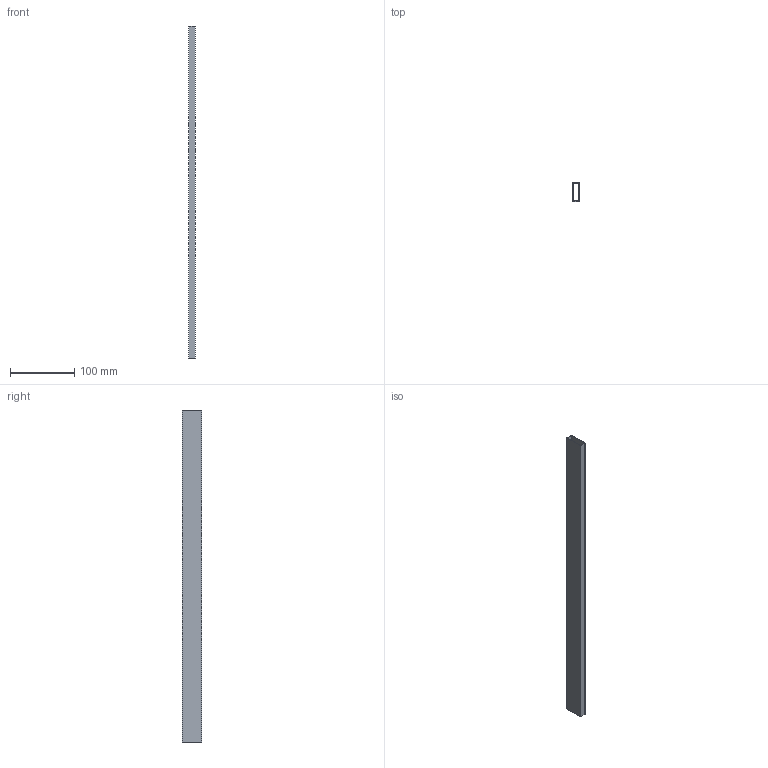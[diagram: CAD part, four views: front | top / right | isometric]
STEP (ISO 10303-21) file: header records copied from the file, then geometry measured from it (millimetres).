
FILE_DESCRIPTION (( 'STEP AP214' ), '1' );
FILE_NAME ('_DWD XP Rechteckreling NL550.step', '2010-07-14T13:27:54', ( 'grass' ), ( '' ), 'SwSTEP 2.0', 'SolidWorks 2010', '' );
FILE_SCHEMA (( 'AUTOMOTIVE_DESIGN' ));
Length unit declared in the file: millimetre
Products named in the file (1): _DWD XP Rechteckreling NL550
Bounding box: 10.5 x 30 x 517.1 mm (x, y, z)
Volume: 24386.4 mm3; surface area: 81382.4 mm2
Topology: 1 solids, 1 shells, 10 faces, 24 edges, 16 vertices
Faces by surface type: plane 10
Entity records: 326 total; most frequent: CARTESIAN_POINT 51, ORIENTED_EDGE 48, DIRECTION 46, LINE 24, VECTOR 24, EDGE_CURVE 24, VERTEX_POINT 16, EDGE_LOOP 12
